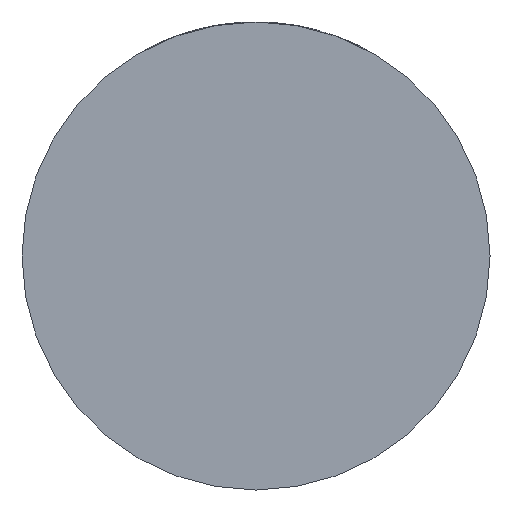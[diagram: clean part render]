
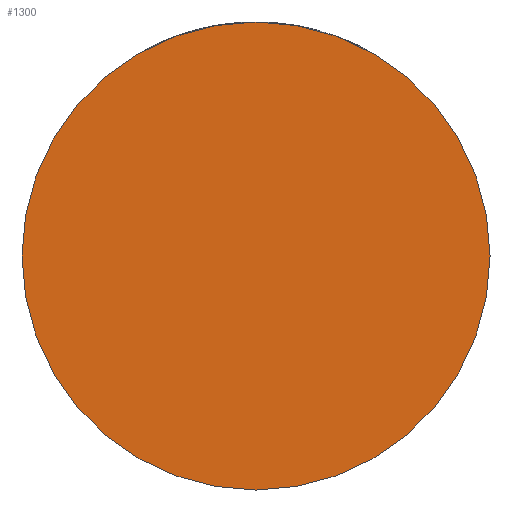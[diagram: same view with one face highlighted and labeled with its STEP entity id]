
A CAD part, front view. The second image highlights one B-rep face of the part: STEP entity #1300.
In plain terms, the highlighted planar face has unit normal (0, -1, 0).
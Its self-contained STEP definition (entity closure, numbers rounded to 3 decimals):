
#126 = FACE_OUTER_BOUND ( 'NONE', #4121, .T. ) ;
#299 = DIRECTION ( 'NONE',  ( 1., 0., 0. ) ) ;
#636 = CARTESIAN_POINT ( 'NONE',  ( 39., -36., 0. ) ) ;
#947 = ORIENTED_EDGE ( 'NONE', *, *, #3143, .T. ) ;
#1208 = AXIS2_PLACEMENT_3D ( 'NONE', #3729, #2255, #299 ) ;
#1220 = CARTESIAN_POINT ( 'NONE',  ( -39., -36., 0. ) ) ;
#1300 = ADVANCED_FACE ( 'NONE', ( #126 ), #4460, .T. ) ;
#1870 = AXIS2_PLACEMENT_3D ( 'NONE', #2068, #3215, #4380 ) ;
#2068 = CARTESIAN_POINT ( 'NONE',  ( 0., -36., 0. ) ) ;
#2193 = CIRCLE ( 'NONE', #1208, 39. ) ;
#2255 = DIRECTION ( 'NONE',  ( 0., -1., 0. ) ) ;
#2584 = ORIENTED_EDGE ( 'NONE', *, *, #2869, .T. ) ;
#2869 = EDGE_CURVE ( 'NONE', #3559, #4748, #2193, .T. ) ;
#3101 = CIRCLE ( 'NONE', #1870, 39. ) ;
#3143 = EDGE_CURVE ( 'NONE', #4748, #3559, #3101, .T. ) ;
#3215 = DIRECTION ( 'NONE',  ( 0., -1., 0. ) ) ;
#3235 = CARTESIAN_POINT ( 'NONE',  ( 0., -36., 0. ) ) ;
#3514 = AXIS2_PLACEMENT_3D ( 'NONE', #3235, #4079, #4434 ) ;
#3559 = VERTEX_POINT ( 'NONE', #636 ) ;
#3729 = CARTESIAN_POINT ( 'NONE',  ( 0., -36., 0. ) ) ;
#4079 = DIRECTION ( 'NONE',  ( 0., -1., 0. ) ) ;
#4121 = EDGE_LOOP ( 'NONE', ( #947, #2584 ) ) ;
#4380 = DIRECTION ( 'NONE',  ( 1., 0., 0. ) ) ;
#4434 = DIRECTION ( 'NONE',  ( 1., 0., 0. ) ) ;
#4460 = PLANE ( 'NONE',  #3514 ) ;
#4748 = VERTEX_POINT ( 'NONE', #1220 ) ;
